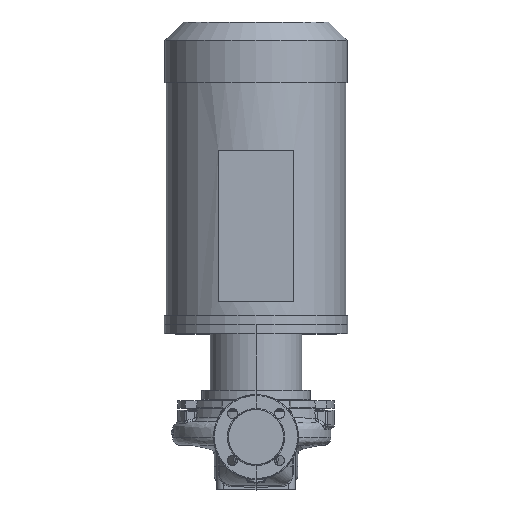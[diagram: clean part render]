
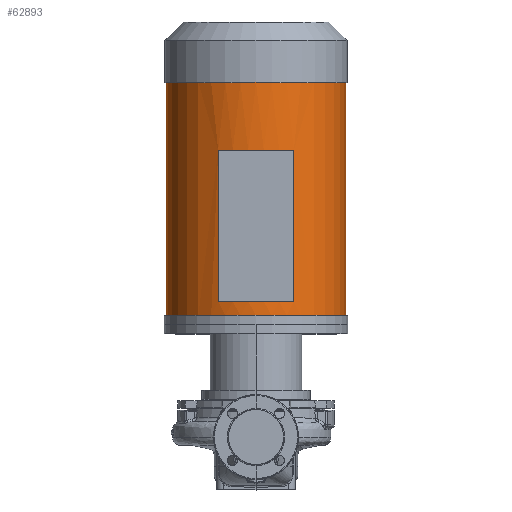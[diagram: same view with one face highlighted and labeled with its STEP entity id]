
A CAD part, top view. The second image highlights one B-rep face of the part: STEP entity #62893.
In plain terms, the highlighted cylindrical face has radius 195.5 mm (diameter 391 mm), a partial arc.
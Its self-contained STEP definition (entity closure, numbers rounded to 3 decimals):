
#671 = CARTESIAN_POINT ( 'NONE',  ( -82.5, 295.3, 177.24 ) ) ;
#1592 = VERTEX_POINT ( 'NONE', #2695 ) ;
#1840 = VERTEX_POINT ( 'NONE', #10379 ) ;
#2149 = VERTEX_POINT ( 'NONE', #671 ) ;
#2214 = FACE_BOUND ( 'NONE', #12810, .T. ) ;
#2695 = CARTESIAN_POINT ( 'NONE',  ( -195.5, 265.3, 0. ) ) ;
#4340 = ORIENTED_EDGE ( 'NONE', *, *, #24945, .F. ) ;
#5715 = VERTEX_POINT ( 'NONE', #12582 ) ;
#6841 = AXIS2_PLACEMENT_3D ( 'NONE', #49278, #45172, #24593 ) ;
#6882 = DIRECTION ( 'NONE',  ( 1., 0., 0. ) ) ;
#7224 = DIRECTION ( 'NONE',  ( 0., 1., 0. ) ) ;
#8731 = ORIENTED_EDGE ( 'NONE', *, *, #23641, .F. ) ;
#9177 = EDGE_CURVE ( 'NONE', #60561, #45291, #53778, .T. ) ;
#10379 = CARTESIAN_POINT ( 'NONE',  ( -195.5, 773.3, 0. ) ) ;
#11040 = CARTESIAN_POINT ( 'NONE',  ( 82.5, 295.3, 177.24 ) ) ;
#12582 = CARTESIAN_POINT ( 'NONE',  ( 195.5, 265.3, 0. ) ) ;
#12810 = EDGE_LOOP ( 'NONE', ( #18077, #54060, #8731, #4340 ) ) ;
#12939 = EDGE_CURVE ( 'NONE', #5715, #1592, #47109, .T. ) ;
#14856 = DIRECTION ( 'NONE',  ( 0., -1., 0. ) ) ;
#16569 = LINE ( 'NONE', #18776, #36943 ) ;
#18077 = ORIENTED_EDGE ( 'NONE', *, *, #9177, .F. ) ;
#18776 = CARTESIAN_POINT ( 'NONE',  ( 82.5, 245.3, 177.24 ) ) ;
#20195 = FACE_OUTER_BOUND ( 'NONE', #45680, .T. ) ;
#20782 = DIRECTION ( 'NONE',  ( 0., 1., 0. ) ) ;
#21882 = CARTESIAN_POINT ( 'NONE',  ( -82.5, 625.3, 177.24 ) ) ;
#23004 = CARTESIAN_POINT ( 'NONE',  ( -82.5, 245.3, 177.24 ) ) ;
#23621 = DIRECTION ( 'NONE',  ( -1., 0., 0. ) ) ;
#23641 = EDGE_CURVE ( 'NONE', #2149, #30103, #54469, .T. ) ;
#24593 = DIRECTION ( 'NONE',  ( 1., 0., 0. ) ) ;
#24945 = EDGE_CURVE ( 'NONE', #45291, #2149, #67252, .T. ) ;
#25463 = VERTEX_POINT ( 'NONE', #38747 ) ;
#28270 = CYLINDRICAL_SURFACE ( 'NONE', #6841, 195.5 ) ;
#28650 = ORIENTED_EDGE ( 'NONE', *, *, #35992, .T. ) ;
#28788 = EDGE_CURVE ( 'NONE', #30103, #60561, #16569, .T. ) ;
#29689 = AXIS2_PLACEMENT_3D ( 'NONE', #62684, #31670, #36911 ) ;
#30103 = VERTEX_POINT ( 'NONE', #11040 ) ;
#31670 = DIRECTION ( 'NONE',  ( 0., -1., 0. ) ) ;
#32415 = LINE ( 'NONE', #37944, #67213 ) ;
#35823 = AXIS2_PLACEMENT_3D ( 'NONE', #40773, #14856, #6882 ) ;
#35958 = AXIS2_PLACEMENT_3D ( 'NONE', #49548, #39865, #55231 ) ;
#35992 = EDGE_CURVE ( 'NONE', #25463, #1840, #58197, .T. ) ;
#36911 = DIRECTION ( 'NONE',  ( 1., 0., 0. ) ) ;
#36943 = VECTOR ( 'NONE', #20782, 1000. ) ;
#37944 = CARTESIAN_POINT ( 'NONE',  ( 195.5, 245.3, 0. ) ) ;
#38747 = CARTESIAN_POINT ( 'NONE',  ( 195.5, 773.3, 0. ) ) ;
#38842 = CARTESIAN_POINT ( 'NONE',  ( 0., 295.3, 0. ) ) ;
#39865 = DIRECTION ( 'NONE',  ( 0., -1., 0. ) ) ;
#40177 = ORIENTED_EDGE ( 'NONE', *, *, #55125, .T. ) ;
#40773 = CARTESIAN_POINT ( 'NONE',  ( 0., 773.3, 0. ) ) ;
#44010 = ORIENTED_EDGE ( 'NONE', *, *, #47749, .F. ) ;
#45172 = DIRECTION ( 'NONE',  ( 0., -1., 0. ) ) ;
#45291 = VERTEX_POINT ( 'NONE', #21882 ) ;
#45680 = EDGE_LOOP ( 'NONE', ( #28650, #40177, #57962, #44010 ) ) ;
#45930 = AXIS2_PLACEMENT_3D ( 'NONE', #38842, #7224, #23621 ) ;
#47109 = CIRCLE ( 'NONE', #35958, 195.5 ) ;
#47749 = EDGE_CURVE ( 'NONE', #25463, #5715, #32415, .T. ) ;
#48201 = VECTOR ( 'NONE', #59407, 1000. ) ;
#48590 = DIRECTION ( 'NONE',  ( 0., -1., 0. ) ) ;
#49278 = CARTESIAN_POINT ( 'NONE',  ( 0., 245.3, 0. ) ) ;
#49548 = CARTESIAN_POINT ( 'NONE',  ( 0., 265.3, 0. ) ) ;
#51476 = LINE ( 'NONE', #52169, #48201 ) ;
#52169 = CARTESIAN_POINT ( 'NONE',  ( -195.5, 245.3, 0. ) ) ;
#53778 = CIRCLE ( 'NONE', #29689, 195.5 ) ;
#54060 = ORIENTED_EDGE ( 'NONE', *, *, #28788, .F. ) ;
#54469 = CIRCLE ( 'NONE', #45930, 195.5 ) ;
#55125 = EDGE_CURVE ( 'NONE', #1840, #1592, #51476, .T. ) ;
#55231 = DIRECTION ( 'NONE',  ( 1., 0., 0. ) ) ;
#57962 = ORIENTED_EDGE ( 'NONE', *, *, #12939, .F. ) ;
#58197 = CIRCLE ( 'NONE', #35823, 195.5 ) ;
#59175 = VECTOR ( 'NONE', #48590, 1000. ) ;
#59407 = DIRECTION ( 'NONE',  ( 0., -1., 0. ) ) ;
#60561 = VERTEX_POINT ( 'NONE', #63259 ) ;
#62684 = CARTESIAN_POINT ( 'NONE',  ( 0., 625.3, 0. ) ) ;
#62893 = ADVANCED_FACE ( 'NONE', ( #2214, #20195 ), #28270, .T. ) ;
#63259 = CARTESIAN_POINT ( 'NONE',  ( 82.5, 625.3, 177.24 ) ) ;
#64186 = DIRECTION ( 'NONE',  ( 0., -1., 0. ) ) ;
#67213 = VECTOR ( 'NONE', #64186, 1000. ) ;
#67252 = LINE ( 'NONE', #23004, #59175 ) ;
